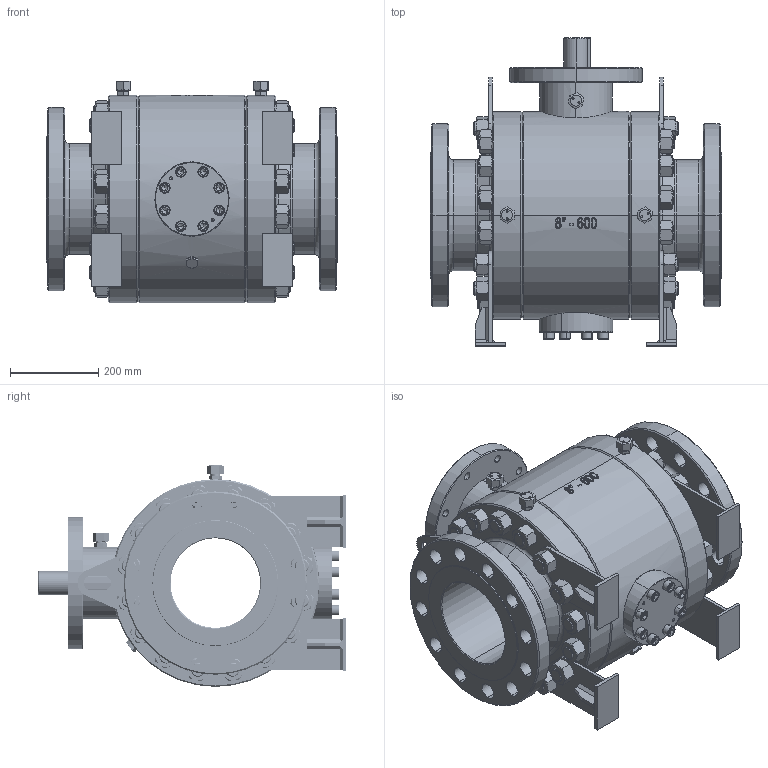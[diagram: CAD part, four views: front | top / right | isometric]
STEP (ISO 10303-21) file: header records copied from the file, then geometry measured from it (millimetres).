
FILE_DESCRIPTION (( 'STEP AP203' ), '1' );
FILE_NAME ('Fig.6060 DN-200 PN-63.STEP', '2017-04-19T16:09:33', ( 'admin' ), ( 'Hewlett-Packard Company' ), 'SwSTEP 2.0', 'SolidWorks 2016', '' );
FILE_SCHEMA (( 'CONFIG_CONTROL_DESIGN' ));
Length unit declared in the file: millimetre
Products named in the file (25): UN 1.1_4-8_HHNUT 0.8750-9-D-C; 6060TB200EG; 6060TB200BAI_Predeterminado<Como mecanizada>; DIN 912 M16 x 70 _ 44_DIN 912 M16x1.5 x 70 --- 44N; 6060TB200SA; 6060TB200ARG; DIN 912 M16 x 120 _ 44_DIN 912 M16x1.5 x 70 --- 44N; Engrasador 3_8 NPT-2; 6060TB200E; DIN 6325 - 14 x 60; Engrasador 3_8 NPT-1; 141487CH; DIN 912 M4 x 16_EN ISO 4762 M4 x 16 - 16N; Engrasador 3_8 NPT; 6060TB200PP; 6060TB200L63; Tapón purga 0,75 NPT; 6060TB200FSFF; Fig.6060 DN-200 PN-63; SUN1141454450; 6060TB200FI; 6060TB200C; SUN1141534458; 6060TB200B; 6060TB200BAD_Predeterminado<Como mecanizada>
Assembly tree (104 placements, depth 3):
  Fig.6060 DN-200 PN-63
    6060TB200C
    6060TB200BAD_Predeterminado<Como mecanizada>  x2
    6060TB200BAI_Predeterminado<Como mecanizada>  x2
    6060TB200ARG  x2
    6060TB200E
    141487CH
    6060TB200PP
    6060TB200FSFF
    6060TB200FI
    6060TB200B
    6060TB200EG
    6060TB200SA  x2
    Engrasador 3_8 NPT  x3
      Engrasador 3_8 NPT-2
      Engrasador 3_8 NPT-1
    Tapón purga 0,75 NPT  x2
    SUN1141454450  x20
    SUN1141534458  x12
    UN 1.1_4-8_HHNUT 0.8750-9-D-C  x32
    DIN 912 M16 x 70 _ 44_DIN 912 M16x1.5 x 70 --- 44N  x8
    DIN 912 M16 x 120 _ 44_DIN 912 M16x1.5 x 70 --- 44N  x4
    DIN 6325 - 14 x 60  x2
    DIN 912 M4 x 16_EN ISO 4762 M4 x 16 - 16N
    6060TB200L63  x2
Bounding box: 660 x 698.29 x 502 mm (x, y, z)
Volume: 68962977.6 mm3; surface area: 5543104.6 mm2
Topology: 129 solids, 129 shells, 3326 faces, 7408 edges, 4440 vertices
Faces by surface type: plane 1067, cylinder 1063, cone 955, torus 171, bspline 60, sphere 10
Entity records: 49500 total; most frequent: CARTESIAN_POINT 12893, DIRECTION 7167, ORIENTED_EDGE 6114, EDGE_CURVE 3057, AXIS2_PLACEMENT_3D 2935, VERTEX_POINT 1913, EDGE_LOOP 1698, CIRCLE 1515
